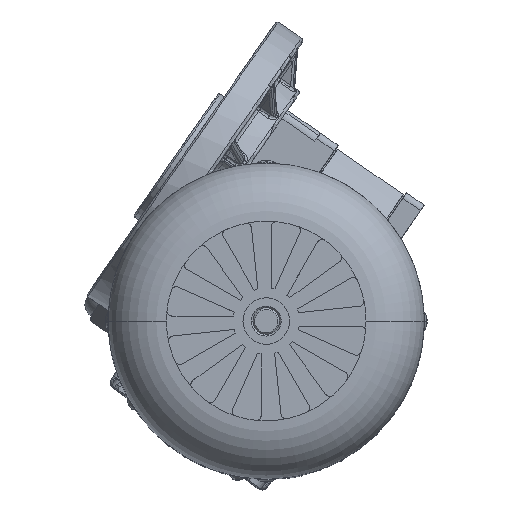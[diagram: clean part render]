
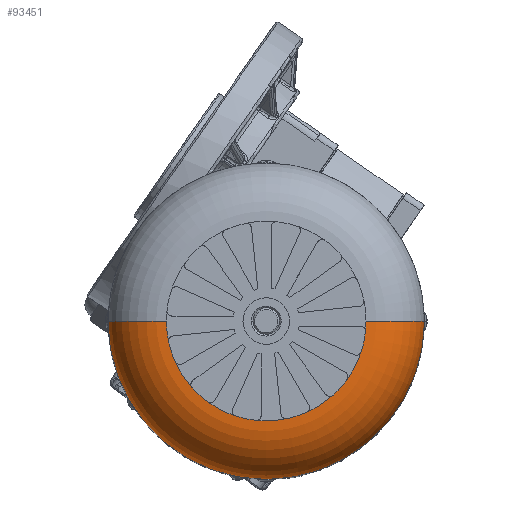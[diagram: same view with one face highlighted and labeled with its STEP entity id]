
A CAD part, top view. The second image highlights one B-rep face of the part: STEP entity #93451.
In plain terms, the highlighted toroidal (fillet/blend) face has major radius 30 mm and minor radius 17.5 mm.
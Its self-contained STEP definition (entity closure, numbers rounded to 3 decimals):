
#19781=CARTESIAN_POINT('',(-30.0,0.,37.5));
#19782=VERTEX_POINT('',#19781);
#19783=CARTESIAN_POINT('',(-47.5,0.,20.0));
#19784=VERTEX_POINT('',#19783);
#19785=CARTESIAN_POINT('',(-30.0,0.,20.0));
#19786=DIRECTION('',(0.0,-1.0,0.0));
#19787=DIRECTION('',(-1.0,0.0,0.0));
#19788=AXIS2_PLACEMENT_3D('',#19785,#19786,#19787);
#19789=CIRCLE('',#19788,17.5);
#19790=EDGE_CURVE('',#19782,#19784,#19789,.T.);
#19900=CARTESIAN_POINT('',(30.0,0.,37.5));
#19901=VERTEX_POINT('',#19900);
#19909=CARTESIAN_POINT('',(47.5,0.,20.0));
#19910=VERTEX_POINT('',#19909);
#19911=CARTESIAN_POINT('',(30.0,0.,20.0));
#19912=DIRECTION('',(0.0,-1.0,0.0));
#19913=DIRECTION('',(1.0,0.0,0.0));
#19914=AXIS2_PLACEMENT_3D('',#19911,#19912,#19913);
#19915=CIRCLE('',#19914,17.5);
#19916=EDGE_CURVE('',#19910,#19901,#19915,.T.);
#20228=CARTESIAN_POINT('',(0.0,0.,20.0));
#20229=DIRECTION('',(0.0,0.0,1.0));
#20230=DIRECTION('',(-1.0,0.0,0.0));
#20231=AXIS2_PLACEMENT_3D('',#20228,#20229,#20230);
#20232=CIRCLE('',#20231,47.5);
#20233=EDGE_CURVE('',#19784,#19910,#20232,.T.);
#90994=CARTESIAN_POINT('',(-27.415,-12.182,37.5));
#90995=VERTEX_POINT('',#90994);
#91100=CARTESIAN_POINT('',(-17.651,-24.258,37.5));
#91101=VERTEX_POINT('',#91100);
#91206=CARTESIAN_POINT('',(-3.157,-29.833,37.5));
#91207=VERTEX_POINT('',#91206);
#91312=CARTESIAN_POINT('',(12.182,-27.415,37.5));
#91313=VERTEX_POINT('',#91312);
#91418=CARTESIAN_POINT('',(24.258,-17.651,37.5));
#91419=VERTEX_POINT('',#91418);
#91524=CARTESIAN_POINT('',(29.833,-3.157,37.5));
#91525=VERTEX_POINT('',#91524);
#92150=CARTESIAN_POINT('',(-29.34,-6.259,37.5));
#92151=VERTEX_POINT('',#92150);
#92181=CARTESIAN_POINT('',(0.0,0.,37.5));
#92182=DIRECTION('',(0.0,0.0,-1.0));
#92183=DIRECTION('',(0.978,0.209,0.0));
#92184=AXIS2_PLACEMENT_3D('',#92181,#92182,#92183);
#92185=CIRCLE('',#92184,30.);
#92186=EDGE_CURVE('',#90995,#92151,#92185,.T.);
#92238=CARTESIAN_POINT('',(-22.28,-20.09,37.5));
#92239=VERTEX_POINT('',#92238);
#92269=CARTESIAN_POINT('',(0.0,0.,37.5));
#92270=DIRECTION('',(0.0,0.0,-1.));
#92271=DIRECTION('',(0.743,0.67,0.0));
#92272=AXIS2_PLACEMENT_3D('',#92269,#92270,#92271);
#92273=CIRCLE('',#92272,30.0);
#92274=EDGE_CURVE('',#91101,#92239,#92273,.T.);
#92326=CARTESIAN_POINT('',(-9.249,-28.539,37.5));
#92327=VERTEX_POINT('',#92326);
#92357=CARTESIAN_POINT('',(0.0,0.,37.5));
#92358=DIRECTION('',(0.0,0.0,-1.0));
#92359=DIRECTION('',(0.308,0.951,0.0));
#92360=AXIS2_PLACEMENT_3D('',#92357,#92358,#92359);
#92361=CIRCLE('',#92360,30.0);
#92362=EDGE_CURVE('',#91207,#92327,#92361,.T.);
#92414=CARTESIAN_POINT('',(6.259,-29.34,37.5));
#92415=VERTEX_POINT('',#92414);
#92445=CARTESIAN_POINT('',(0.0,0.,37.5));
#92446=DIRECTION('',(0.0,0.0,-1.0));
#92447=DIRECTION('',(-0.209,0.978,0.0));
#92448=AXIS2_PLACEMENT_3D('',#92445,#92446,#92447);
#92449=CIRCLE('',#92448,30.);
#92450=EDGE_CURVE('',#91313,#92415,#92449,.T.);
#92502=CARTESIAN_POINT('',(20.09,-22.28,37.5));
#92503=VERTEX_POINT('',#92502);
#92533=CARTESIAN_POINT('',(0.0,0.,37.5));
#92534=DIRECTION('',(0.0,0.0,-1.0));
#92535=DIRECTION('',(-0.67,0.743,0.0));
#92536=AXIS2_PLACEMENT_3D('',#92533,#92534,#92535);
#92537=CIRCLE('',#92536,30.);
#92538=EDGE_CURVE('',#91419,#92503,#92537,.T.);
#92590=CARTESIAN_POINT('',(28.539,-9.249,37.5));
#92591=VERTEX_POINT('',#92590);
#92621=CARTESIAN_POINT('',(0.0,0.,37.5));
#92622=DIRECTION('',(0.0,0.0,-1.0));
#92623=DIRECTION('',(-0.951,0.308,0.0));
#92624=AXIS2_PLACEMENT_3D('',#92621,#92622,#92623);
#92625=CIRCLE('',#92624,30.0);
#92626=EDGE_CURVE('',#91525,#92591,#92625,.T.);
#93299=CARTESIAN_POINT('',(0.0,0.,37.5));
#93300=DIRECTION('',(0.0,0.0,-1.0));
#93301=DIRECTION('',(-1.0,0.0,0.0));
#93302=AXIS2_PLACEMENT_3D('',#93299,#93300,#93301);
#93303=CIRCLE('',#93302,30.0);
#93304=EDGE_CURVE('',#92151,#19782,#93303,.T.);
#93311=CARTESIAN_POINT('',(0.0,0.,37.5));
#93312=DIRECTION('',(0.0,0.0,-1.0));
#93313=DIRECTION('',(-1.0,0.0,0.0));
#93314=AXIS2_PLACEMENT_3D('',#93311,#93312,#93313);
#93315=CIRCLE('',#93314,30.0);
#93316=EDGE_CURVE('',#92239,#90995,#93315,.T.);
#93323=CARTESIAN_POINT('',(0.0,0.,37.5));
#93324=DIRECTION('',(0.0,0.0,-1.0));
#93325=DIRECTION('',(-1.0,0.0,0.0));
#93326=AXIS2_PLACEMENT_3D('',#93323,#93324,#93325);
#93327=CIRCLE('',#93326,30.0);
#93328=EDGE_CURVE('',#92327,#91101,#93327,.T.);
#93335=CARTESIAN_POINT('',(0.0,0.,37.5));
#93336=DIRECTION('',(0.0,0.0,-1.0));
#93337=DIRECTION('',(-1.0,0.0,0.0));
#93338=AXIS2_PLACEMENT_3D('',#93335,#93336,#93337);
#93339=CIRCLE('',#93338,30.0);
#93340=EDGE_CURVE('',#92415,#91207,#93339,.T.);
#93347=CARTESIAN_POINT('',(0.0,0.,37.5));
#93348=DIRECTION('',(0.0,0.0,-1.0));
#93349=DIRECTION('',(-1.0,0.0,0.0));
#93350=AXIS2_PLACEMENT_3D('',#93347,#93348,#93349);
#93351=CIRCLE('',#93350,30.0);
#93352=EDGE_CURVE('',#92503,#91313,#93351,.T.);
#93359=CARTESIAN_POINT('',(0.0,0.,37.5));
#93360=DIRECTION('',(0.0,0.0,-1.0));
#93361=DIRECTION('',(-1.0,0.0,0.0));
#93362=AXIS2_PLACEMENT_3D('',#93359,#93360,#93361);
#93363=CIRCLE('',#93362,30.0);
#93364=EDGE_CURVE('',#92591,#91419,#93363,.T.);
#93371=CARTESIAN_POINT('',(0.0,0.,37.5));
#93372=DIRECTION('',(0.0,0.0,-1.0));
#93373=DIRECTION('',(-1.0,0.0,0.0));
#93374=AXIS2_PLACEMENT_3D('',#93371,#93372,#93373);
#93375=CIRCLE('',#93374,30.0);
#93376=EDGE_CURVE('',#19901,#91525,#93375,.T.);
#93428=CARTESIAN_POINT('',(0.0,0.,20.0));
#93429=DIRECTION('',(0.0,0.0,-1.0));
#93430=DIRECTION('',(-1.0,0.0,0.0));
#93431=AXIS2_PLACEMENT_3D('',#93428,#93429,#93430);
#93432=TOROIDAL_SURFACE('',#93431,30.0,17.5);
#93433=ORIENTED_EDGE('',*,*,#19790,.T.);
#93434=ORIENTED_EDGE('',*,*,#20233,.T.);
#93435=ORIENTED_EDGE('',*,*,#19916,.T.);
#93436=ORIENTED_EDGE('',*,*,#93376,.T.);
#93437=ORIENTED_EDGE('',*,*,#92626,.T.);
#93438=ORIENTED_EDGE('',*,*,#93364,.T.);
#93439=ORIENTED_EDGE('',*,*,#92538,.T.);
#93440=ORIENTED_EDGE('',*,*,#93352,.T.);
#93441=ORIENTED_EDGE('',*,*,#92450,.T.);
#93442=ORIENTED_EDGE('',*,*,#93340,.T.);
#93443=ORIENTED_EDGE('',*,*,#92362,.T.);
#93444=ORIENTED_EDGE('',*,*,#93328,.T.);
#93445=ORIENTED_EDGE('',*,*,#92274,.T.);
#93446=ORIENTED_EDGE('',*,*,#93316,.T.);
#93447=ORIENTED_EDGE('',*,*,#92186,.T.);
#93448=ORIENTED_EDGE('',*,*,#93304,.T.);
#93449=EDGE_LOOP('',(#93433,#93434,#93435,#93436,#93437,#93438,#93439,#93440,#93441,#93442,#93443,#93444,#93445,#93446,#93447,#93448));
#93450=FACE_OUTER_BOUND('',#93449,.T.);
#93451=ADVANCED_FACE('',(#93450),#93432,.T.);
